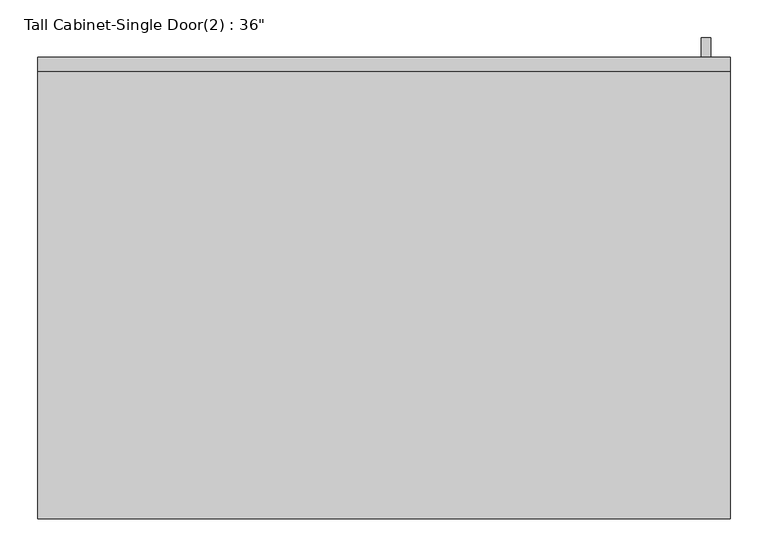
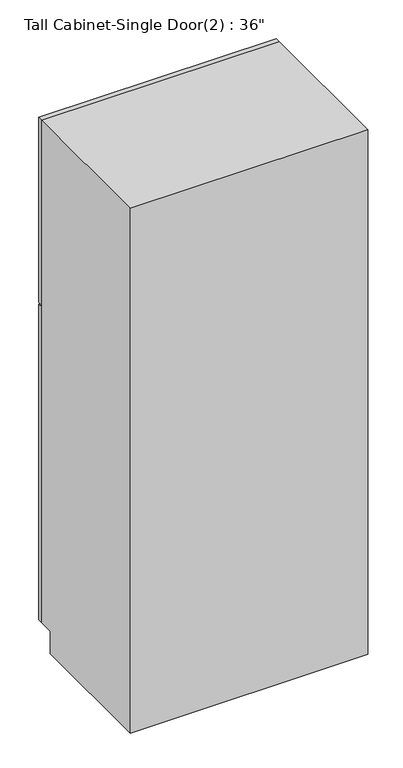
"""IFC4 building model written with IfcOpenShell, lengths in millimetres: furniture geometry."""

from ifc_helpers import new_model, si_unit, frame, origin, place, context, project, spatial, polyline, outline, extrude, faceted_brep, source, transform, mapped, element, save


def furniture_ffaa0446(model_context):
    return source(origin(), model_context, "Body", "SolidModel", [
        faceted_brep([(475.9377049, 590.55, 90.4875), (-438.4622951, 590.55, 90.4875), (-438.4622951, 590.55, 2133.6), (475.9377049, 590.55, 2133.6), (456.8877049, 590.55, 2114.55), (-419.4122951, 590.55, 2114.55), (-419.4122951, 590.55, 109.5375), (456.8877049, 590.55, 109.5375), (-438.4622951, 0.0, 2133.6), (-438.4622951, 0.0, 0.0), (475.9377049, 0.0, 0.0), (475.9377049, 0.0, 2133.6), (475.9377049, 533.4, 0.0), (475.9377049, 533.4, 90.4875), (-438.4622951, 533.4, 90.4875), (-438.4622951, 533.4, 0.0), (456.8877049, 19.05, 109.5375), (456.8877049, 19.05, 2114.55), (-419.4122951, 19.05, 109.5375), (-419.4122951, 19.05, 2114.55)], [[[0, 1, 2, 3], [4, 5, 6, 7]], [[8, 9, 10, 11]], [[3, 11, 10, 12, 13, 0]], [[2, 8, 11, 3]], [[1, 14, 15, 9, 8, 2]], [[0, 13, 14, 1]], [[7, 16, 17, 4]], [[6, 18, 16, 7]], [[5, 19, 18, 6]], [[4, 17, 19, 5]], [[10, 9, 15, 12]], [[15, 14, 13, 12]], [[16, 18, 19, 17]]]),
        extrude(outline(polyline([(450.5377049, 635.0), (450.5377049, 609.6), (438.0054733, 609.6), (438.0054733, 635.0), (450.5377049, 635.0)])), frame((0.0, 0.0, 1403.5480367), z_axis=(0.0, 0.0, 1.0), x_axis=(1.0, 0.0, 0.0)), (0.0, 0.0, 1.0), 101.6),
        extrude(outline(polyline([(450.5377049, 635.0), (450.5377049, 609.6), (438.0054733, 609.6), (438.0054733, 635.0), (450.5377049, 635.0)])), frame((0.0, 0.0, 1251.1480367), z_axis=(0.0, 0.0, 1.0), x_axis=(1.0, 0.0, 0.0)), (0.0, 0.0, 1.0), 101.6),
        extrude(outline(polyline([(412.4377049, 596.9), (412.4377049, 590.55), (-374.9622951, 590.55), (-374.9622951, 596.9), (412.4377049, 596.9)])), frame((0.0, 0.0, 1441.6480367), z_axis=(0.0, 0.0, 1.0), x_axis=(1.0, 0.0, 0.0)), (0.0, 0.0, 1.0), 628.4519633),
        extrude(outline(polyline([(412.4377049, 596.9), (412.4377049, 590.55), (-374.9622951, 590.55), (-374.9622951, 596.9), (412.4377049, 596.9)])), frame((0.0, 0.0, 153.9875), z_axis=(0.0, 0.0, 1.0), x_axis=(1.0, 0.0, 0.0)), (0.0, 0.0, 1.0), 1160.6605367),
        extrude(outline(polyline([(2133.6, 475.9377049), (2133.6, -438.4622951), (1381.3230367, -438.4622951), (1381.3230367, 475.9377049), (2133.6, 475.9377049)]), holes=[polyline([(2070.1, 412.4377049), (1441.6480367, 412.4377049), (1441.6480367, -374.9622951), (2070.1, -374.9622951), (2070.1, 412.4377049)])]), frame((0.0, 590.55, 0.0), z_axis=(0.0, 1.0, 0.0), x_axis=(0.0, 0.0, 1.0)), (0.0, 0.0, 1.0), 19.05),
        extrude(outline(polyline([(90.4875, 475.9377049), (1374.9730367, 475.9377049), (1374.9730367, -438.4622951), (90.4875, -438.4622951), (90.4875, 475.9377049)]), holes=[polyline([(1314.6480367, 412.4377049), (153.9875, 412.4377049), (153.9875, -374.9622951), (1314.6480367, -374.9622951), (1314.6480367, 412.4377049)])]), frame((0.0, 590.55, 0.0), z_axis=(0.0, 1.0, 0.0), x_axis=(0.0, 0.0, 1.0)), (0.0, 0.0, 1.0), 19.05),
    ])


if __name__ == "__main__":
    model = new_model("IFC4")
    model_context = context("Model", 3, world=origin())
    ifc_project = project(units=[si_unit("LENGTHUNIT", "METRE", prefix="MILLI")], contexts=[model_context])
    site = spatial("IfcSite", under=ifc_project)
    building = spatial("IfcBuilding", under=site)
    placement = place(None, origin())
    furniture_shape = furniture_ffaa0446(model_context)
    element("IfcFurniture", 1, ObjectType="Tall Cabinet-Single Door(2) : 36\"", at=placement, inside=building, context=model_context, shape_type="MappedRepresentation", body=[
        mapped(furniture_shape, transform((0.0, 0.0, 0.0), x_axis=(1.0, 0.0, 0.0), y_axis=(0.0, 1.0, 0.0), z_axis=(0.0, 0.0, 1.0))),
    ])
    save(model, "model.ifc")
